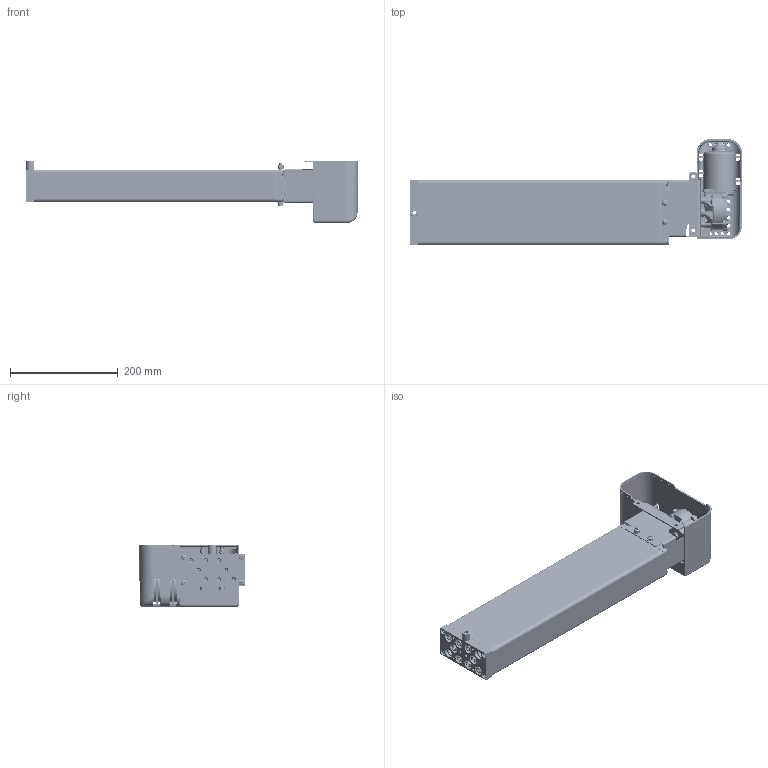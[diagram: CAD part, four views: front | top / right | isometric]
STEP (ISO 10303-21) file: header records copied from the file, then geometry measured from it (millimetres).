
FILE_DESCRIPTION(/* description */ ('Unknown'),/* implementation_level */ '2;1');
FILE_NAME(/* name */ '3X2.20193 Pumpe PB 8418 W mit Antrieb',/* time_stamp */ '2016-11-24T16:45:27+01:00',/* author */ ('Unknown'),/* organization */ ('Unknown'),/* preprocessor_version */ 'ST-DEVELOPER v16.7',/* originating_system */ 'DEX',/* authorisation */ $);
FILE_SCHEMA (('AUTOMOTIVE_DESIGN {1 0 10303 214 3 1 1}'));
Products named in the file (32): 102.00193; 115.10023; 125.00031; 115.00007; 142.00021; 125.00021; 142.00013; 125.00143; 115.00140; 126.00006; 122.00040; 119.00043; 126.00036; 127.00201; 127.00200; 127.00023; 124.00090; Getriebe; Ring; Schraube; Stator; Abdeckplatte; Antriebswelle; 128.00051; 123.00031; 142.00018; 142.00019; 142.00025; 142.00131; 123.00029; 142.00057; 142.00017
Assembly tree (51 placements, depth 3):
  102.00193
    115.10023  x8
      125.00031
      115.00007
      142.00021
      125.00021
    142.00013  x8
    125.00143
    115.00140
      126.00006
      122.00040
    119.00043
    126.00036
    127.00201
      127.00200
      127.00023
    124.00090
      Getriebe
      Ring
      Schraube
      Stator
      Abdeckplatte
      Antriebswelle
    128.00051
    123.00031
    142.00018  x2
    142.00019  x2
    142.00025  x2
    142.00131  x3
    123.00029
    142.00057
    142.00017  x2
Bounding box: 616.45 x 196.04 x 115.45 mm (x, y, z)
Volume: 1115193.5 mm3; surface area: 715274.8 mm2
Topology: 60 solids, 62 shells, 4362 faces, 10958 edges, 6721 vertices
Faces by surface type: plane 1355, cylinder 1182, bspline 1040, cone 491, torus 196, sphere 98
Full cylindrical faces by diameter (mm): 2.5 x4, 3.2 x4, 3.5 x8, 3.9 x5, 4.1 x8, 4.134 x4, 4.2 x10, 4.4 x5, 4.5 x1, 4.917 x4, 5 x8, 5.5 x5, 5.8 x4, 6 x8, 6.4 x2, 6.8 x6, 6.917 x16, 7 x1, 8 x18, 8.5 x6, 9 x10, 9.5 x1, 9.8 x8, 10 x10, 10.3 x1, 10.32 x1, 10.4 x1, 10.5 x4, 11 x5, 12.5 x8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
Entity records: 164936 total; most frequent: CARTESIAN_POINT 80620, ORIENTED_EDGE 16008, DIRECTION 12023, EDGE_CURVE 8004, VERTEX_POINT 5254, AXIS2_PLACEMENT_3D 4655, FACE_BOUND 4000, EDGE_LOOP 3995
